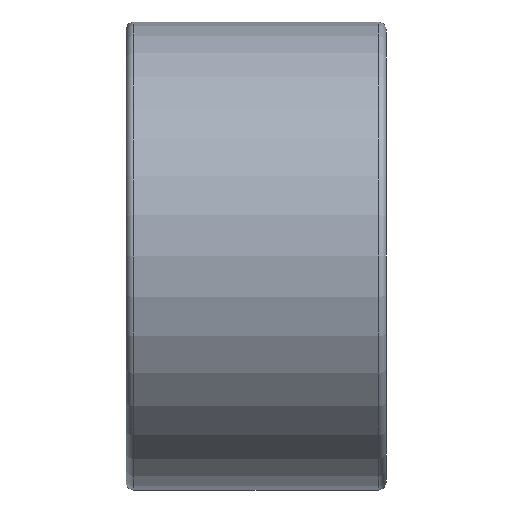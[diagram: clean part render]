
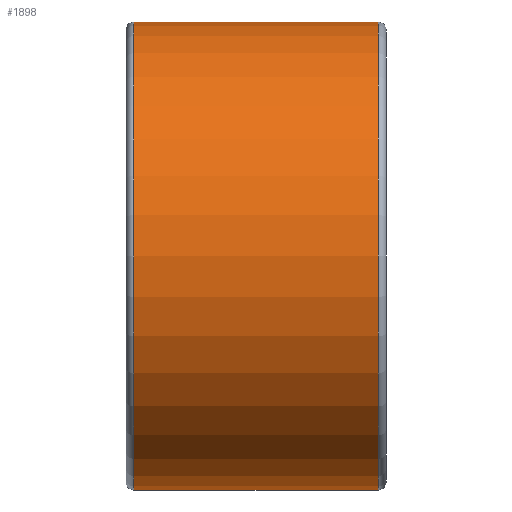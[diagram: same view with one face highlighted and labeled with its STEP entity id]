
A CAD part, front view. The second image highlights one B-rep face of the part: STEP entity #1898.
In plain terms, the highlighted cylindrical face has radius 4.5 mm (diameter 9 mm), a partial arc.
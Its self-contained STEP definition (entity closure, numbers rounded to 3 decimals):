
#210=CARTESIAN_POINT('',(2.35,0.,0.));
#211=DIRECTION('',(-1.,0.,0.));
#212=DIRECTION('',(0.,0.,-1.));
#213=AXIS2_PLACEMENT_3D('',#210,#211,#212);
#799=DIRECTION('',(-1.,0.,0.));
#800=VECTOR('',#799,4.7);
#801=CARTESIAN_POINT('',(2.35,0.,4.5));
#802=LINE('',#801,#800);
#803=DIRECTION('',(-1.,0.,0.));
#804=VECTOR('',#803,4.7);
#805=CARTESIAN_POINT('',(2.35,0.,-4.5));
#806=LINE('',#805,#804);
#812=CARTESIAN_POINT('',(-2.35,0.,0.));
#813=DIRECTION('',(1.,0.,0.));
#814=DIRECTION('',(0.,0.,1.));
#815=AXIS2_PLACEMENT_3D('',#812,#813,#814);
#967=CARTESIAN_POINT('',(2.35,0.,4.5));
#968=VERTEX_POINT('',#967);
#969=CARTESIAN_POINT('',(2.35,0.,-4.5));
#970=VERTEX_POINT('',#969);
#971=CARTESIAN_POINT('',(-2.35,0.,-4.5));
#972=VERTEX_POINT('',#971);
#973=CARTESIAN_POINT('',(-2.35,0.,4.5));
#974=VERTEX_POINT('',#973);
#1886=CARTESIAN_POINT('',(0.,0.,0.));
#1887=DIRECTION('',(-1.,0.,0.));
#1888=DIRECTION('',(0.,0.,1.));
#1889=AXIS2_PLACEMENT_3D('',#1886,#1887,#1888);
#1890=CYLINDRICAL_SURFACE('',#1889,4.5);
#1891=ORIENTED_EDGE('',*,*,#1881,.T.);
#1893=ORIENTED_EDGE('',*,*,#1892,.F.);
#1894=ORIENTED_EDGE('',*,*,#1878,.F.);
#1895=ORIENTED_EDGE('',*,*,#1022,.F.);
#1896=EDGE_LOOP('',(#1891,#1893,#1894,#1895));
#1897=FACE_OUTER_BOUND('',#1896,.F.);
#1898=ADVANCED_FACE('',(#1897),#1890,.T.);
#214=CIRCLE('',#213,4.5);
#816=CIRCLE('',#815,4.5);
#1022=EDGE_CURVE('',#970,#968,#214,.T.);
#1878=EDGE_CURVE('',#968,#974,#802,.T.);
#1881=EDGE_CURVE('',#970,#972,#806,.T.);
#1892=EDGE_CURVE('',#974,#972,#816,.T.);
